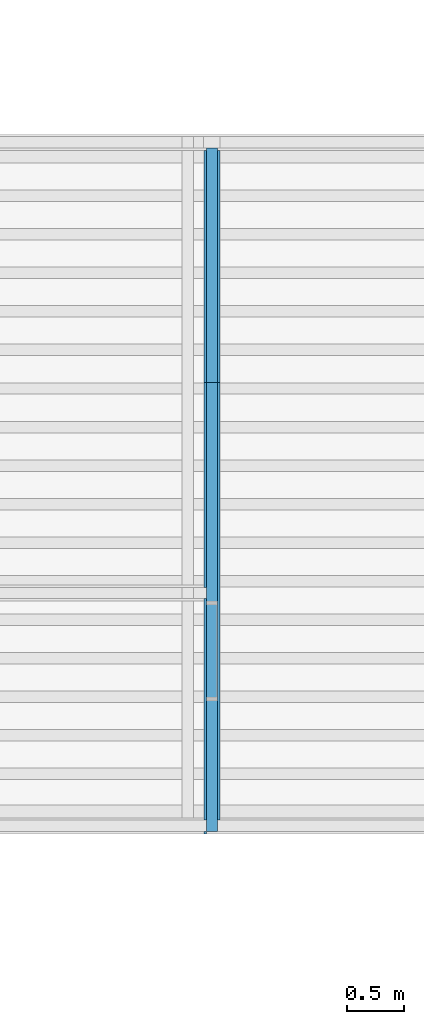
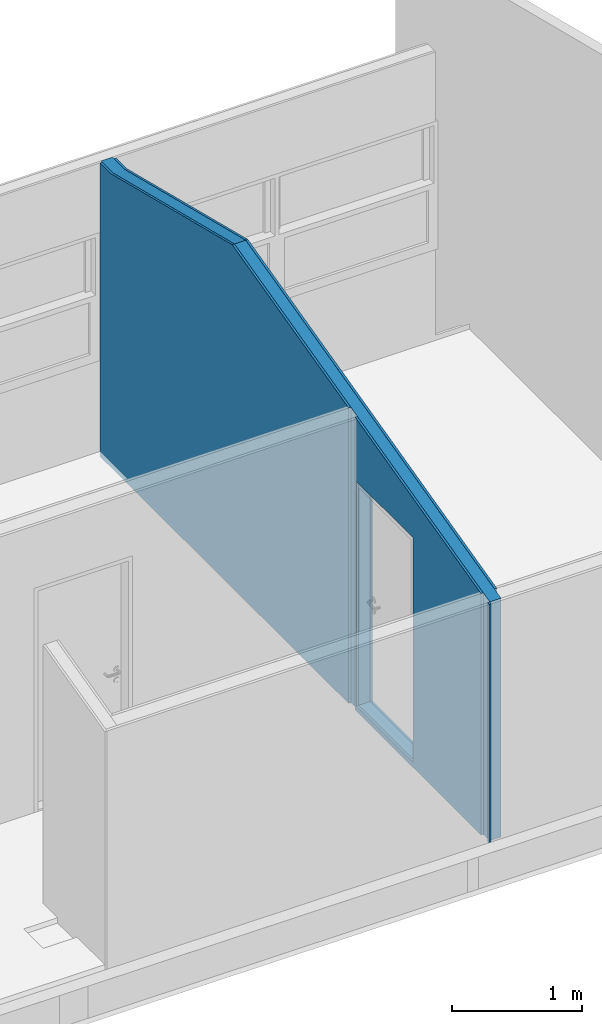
# One storey, part 5 of 13: 3 building element parts, 1 opening, 1 element without a shape of its own.
"""IFC2X3 building model written with IfcOpenShell, lengths in millimetres."""

from ifc_helpers import new_model, entity, si_unit, converted_unit, derived_unit, money_unit, direction, frame, origin_with_axes, origin_2d_with_axis, place, context, subcontext, project, spatial, polyline, rectangle, outline, extrude, boolean, faceted_brep, material, type_object, element, aggregate, save


model = new_model("IFC2X3")

# Units and contexts
model_context = context("Model", 3, precision=0.01, world=origin_with_axes(), true_north=direction((0.293984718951, 0.955810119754)))
body_context = subcontext(model_context, "Body", "Model", "MODEL_VIEW")
ifc_project = project(units=[si_unit("LENGTHUNIT", "METRE", prefix="MILLI"), si_unit("AREAUNIT", "SQUARE_METRE"), si_unit("VOLUMEUNIT", "CUBIC_METRE"), converted_unit("PLANEANGLEUNIT", "DEGREE", entity("IfcPlaneAngleMeasure", 0.0174532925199), si_unit("PLANEANGLEUNIT", "RADIAN"), dimensions=[0, 0, 0, 0, 0, 0, 0]), si_unit("SOLIDANGLEUNIT", "STERADIAN"), money_unit("USD"), converted_unit("TIMEUNIT", "Year", entity("IfcTimeMeasure", 31556926.0), si_unit("TIMEUNIT", "SECOND"), dimensions=[0, 0, 1, 0, 0, 0, 0]), si_unit("MASSUNIT", "GRAM", prefix="KILO"), si_unit("THERMODYNAMICTEMPERATUREUNIT", "DEGREE_CELSIUS"), si_unit("LUMINOUSINTENSITYUNIT", "LUMEN"), si_unit("ENERGYUNIT", "JOULE", prefix="MEGA"), derived_unit("THERMALCONDUCTANCEUNIT", [(si_unit("POWERUNIT", "WATT"), 1), (si_unit("LENGTHUNIT", "METRE"), -1), (si_unit("THERMODYNAMICTEMPERATUREUNIT", "KELVIN"), -1)]), derived_unit("SPECIFICHEATCAPACITYUNIT", [(si_unit("ENERGYUNIT", "JOULE"), 1), (si_unit("MASSUNIT", "GRAM", prefix="KILO"), -1), (si_unit("THERMODYNAMICTEMPERATUREUNIT", "KELVIN"), -1)]), derived_unit("MASSDENSITYUNIT", [(si_unit("MASSUNIT", "GRAM", prefix="KILO"), 1), (si_unit("VOLUMEUNIT", "CUBIC_METRE"), -1)])], contexts=[model_context])

# Site, building, storey
site_placement = place(None, origin_with_axes())
site = spatial("IfcSite", under=ifc_project, at=site_placement, Name="Local", CompositionType="ELEMENT")
building_placement = place(site_placement, origin_with_axes())
building = spatial("IfcBuilding", under=site, at=building_placement, Name="Construção", CompositionType="ELEMENT")
storey_placement = place(building_placement, frame((0.0, 0.0, 3050.0), z_axis=(0.0, 0.0, 1.0), x_axis=(1.0, 0.0, 0.0)))
storey = spatial("IfcBuildingStorey", under=building, at=storey_placement, Name="Primeiro Pavimento", CompositionType="ELEMENT", Elevation=3050.0)

# Wall, opening, building element parts
wall_type = type_object("IfcWallType", Name="Alvenaria Tijolo Maciço com Revestimento 14cm 140", PredefinedType="NOTDEFINED")
wall_placement = place(storey_placement, frame((17449.6450727, 12950.6321979, 0.0), z_axis=(0.0, 0.0, 1.0), x_axis=(0.0, -1.0, 0.0)))
wall = element("IfcWall", 1, at=wall_placement, inside=storey, type_object=wall_type, Name="Parede")
opening_placement = place(wall_placement, frame((4505.0, 0.0, 50.0), z_axis=(0.0, 0.0, 1.0), x_axis=(1.0, 0.0, 0.0)))
element("IfcOpeningElement", 2, at=opening_placement, cuts=wall, Name="P07", context=body_context, shape_type="SweptSolid", body=[
    extrude(rectangle(XDim=870.0, YDim=2100.0, at=origin_2d_with_axis()), frame((0.0, -140.0, 1050.0), z_axis=(0.0, 1.0, 0.0), x_axis=(1.0, 0.0, 0.0)), (0.0, 0.0, 1.0), 420.0),
])
ifc_material_1 = material(Name="Reboco (1)")
building_element_part_1_placement = place(wall_placement, origin_with_axes())
building_element_part_1 = element("IfcBuildingElementPart", 3, at=building_element_part_1_placement, material=ifc_material_1, Name="Reboco (1)", context=body_context, shape_type="CSG", body=[
    boolean("DIFFERENCE", boolean("DIFFERENCE", boolean("DIFFERENCE", extrude(outline(polyline([(-1.03028696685e-10, -70.0), (6100.0, -70.0), (6100.0, -50.0), (-1.03028696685e-10, -50.0), (-1.03028696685e-10, -70.0)])), origin_with_axes(), (0.0, 0.0, 1.0), 3211.87314734), faceted_brep([(6080.0, -50.0, 2235.33656611), (6080.0, -50.0, 0.0), (5980.0, -50.0, 0.0), (5980.0, -50.0, 2260.2693664), (4050.0, -50.0, 2741.47241189), (4050.0, -50.0, 0.0), (3950.0, -50.0, 0.0), (3950.0, -50.0, 2766.40521217), (2163.32569914, -50.0, 3211.87314734), (6100.0, -50.0, 3211.87314734), (6100.0, -50.0, 2230.35000606), (6080.0, -70.0, 2235.33656611), (6080.0, -70.0, 0.0), (5980.0, -70.0, 0.0), (5980.0, -70.0, 2260.2693664), (4050.0, -70.0, 2741.47241189), (4050.0, -70.0, 0.0), (3950.0, -70.0, 0.0), (3950.0, -70.0, 2766.40521217), (2163.32569914, -70.0, 3211.87314734), (-1.03028696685e-10, -50.0, 3211.87314734), (-1.03028696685e-10, -70.0, 3211.87314734), (6100.0, -70.0, 3211.87314734), (6100.0, -70.0, 2230.35000606), (310.825699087, -70.0, 2749.9930219), (310.825699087, -50.0, 2749.9930219), (-1.03028696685e-10, -50.0, 0.0), (-1.03028696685e-10, -70.0, 0.0), (140.0, -70.0, 0.0), (140.0, -70.0, 2749.99302172), (140.0, -50.0, 2749.99302172), (140.0, -50.0, 0.0)], [[[0, 1, 2, 3, 4, 5, 6, 7, 8, 9, 10]], [[1, 0, 11, 12]], [[1, 12, 13, 2]], [[3, 2, 13, 14]], [[14, 15, 4, 3]], [[5, 4, 15, 16]], [[17, 6, 5, 16]], [[7, 6, 17, 18]], [[18, 19, 8, 7]], [[20, 21, 19, 22, 9, 8]], [[23, 10, 9, 22]], [[0, 10, 23, 11]], [[11, 23, 22, 19, 18, 17, 16, 15, 14, 13, 12]], [[19, 24, 25, 8]], [[20, 26, 27, 21]], [[24, 19, 21, 27, 28, 29]], [[8, 25, 30, 31, 26, 20]], [[24, 29, 30, 25]], [[31, 28, 27, 26]], [[31, 30, 29, 28]]])), faceted_brep([(310.825699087, 50.0, 2749.9930219), (120.0, 50.0, 2749.99302172), (120.0, 50.0, 0.0), (-1.03028696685e-10, 50.0, 0.0), (-1.03028696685e-10, 50.0, 3211.87314734), (2163.32569914, 50.0, 3211.87314734), (310.825699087, -50.0, 2749.9930219), (120.0, -50.0, 2749.99302172), (120.0, -50.0, 0.0), (-1.03028696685e-10, -50.0, 0.0), (-1.03028696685e-10, -50.0, 3211.87314734), (2163.32569914, -50.0, 3211.87314734), (6100.0, -50.0, 3211.87314734), (6100.0, 50.0, 3211.87314734), (6080.0, -50.0, 2235.33656611), (6080.0, -50.0, 0.0), (6100.0, -50.0, 0.0), (6100.0, 50.0, 0.0), (6080.0, 50.0, 2235.33656611), (6080.0, 50.0, 0.0)], [[[0, 1, 2, 3, 4, 5]], [[1, 0, 6, 7]], [[2, 1, 7, 8]], [[2, 8, 9, 3]], [[4, 3, 9, 10]], [[4, 10, 11, 12, 13, 5]], [[6, 0, 5, 11]], [[6, 11, 10, 9, 8, 7]], [[14, 15, 16, 12, 11]], [[12, 16, 17, 13]], [[18, 5, 13, 17, 19]], [[18, 14, 11, 5]], [[18, 19, 15, 14]], [[15, 19, 17, 16]]])), faceted_brep([(2163.32569914, 70.0, 3211.87314734), (310.825699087, 70.0, 2749.9930219), (140.0, 70.0, 2749.99302172), (140.0, 70.0, 0.0), (-1.03028696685e-10, 70.0, 0.0), (-1.03028696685e-10, 70.0, 3211.87314734), (2163.32569914, 50.0, 3211.87314734), (310.825699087, 50.0, 2749.9930219), (140.0, 50.0, 2749.99302174), (140.0, 50.0, 0.0), (-1.03028696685e-10, 50.0, 0.0), (-1.03028696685e-10, 50.0, 3211.87314734), (6100.0, 50.0, 3211.87314734), (6100.0, 70.0, 3211.87314734), (5980.0, 70.0, 2260.2693664), (5980.0, 50.0, 2260.2693664), (5980.0, 50.0, 0.0), (6100.0, 50.0, 0.0), (6100.0, 70.0, 0.0), (5980.0, 70.0, 0.0)], [[[0, 1, 2, 3, 4, 5]], [[1, 0, 6, 7]], [[2, 1, 7, 8]], [[3, 2, 8, 9]], [[3, 9, 10, 4]], [[5, 4, 10, 11]], [[5, 11, 6, 12, 13, 0]], [[0, 14, 15, 6]], [[7, 6, 11, 10, 9, 8]], [[15, 16, 17, 12, 6]], [[12, 17, 18, 13]], [[14, 0, 13, 18, 19]], [[14, 19, 16, 15]], [[16, 19, 18, 17]]])),
])
ifc_material_2 = material(Name="Tijolo - Estrutural (1)")
building_element_part_2_placement = place(wall_placement, origin_with_axes())
building_element_part_2 = element("IfcBuildingElementPart", 4, at=building_element_part_2_placement, material=ifc_material_2, Name="Tijolo - Estrutural (1)", context=body_context, shape_type="CSG", body=[
    boolean("DIFFERENCE", boolean("DIFFERENCE", boolean("DIFFERENCE", extrude(outline(polyline([(-1.03028696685e-10, -50.0), (6100.0, -50.0), (6100.0, 50.0), (-1.03028696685e-10, 50.0), (-1.03028696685e-10, -50.0)])), origin_with_axes(), (0.0, 0.0, 1.0), 3211.87314734), faceted_brep([(6080.0, -50.0, 2235.33656611), (6080.0, -50.0, 0.0), (5980.0, -50.0, 0.0), (5980.0, -50.0, 2260.2693664), (4050.0, -50.0, 2741.47241189), (4050.0, -50.0, 0.0), (3950.0, -50.0, 0.0), (3950.0, -50.0, 2766.40521217), (2163.32569914, -50.0, 3211.87314734), (6100.0, -50.0, 3211.87314734), (6100.0, -50.0, 2230.35000606), (6080.0, -70.0, 2235.33656611), (6080.0, -70.0, 0.0), (5980.0, -70.0, 0.0), (5980.0, -70.0, 2260.2693664), (4050.0, -70.0, 2741.47241189), (4050.0, -70.0, 0.0), (3950.0, -70.0, 0.0), (3950.0, -70.0, 2766.40521217), (2163.32569914, -70.0, 3211.87314734), (-1.03028696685e-10, -50.0, 3211.87314734), (-1.03028696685e-10, -70.0, 3211.87314734), (6100.0, -70.0, 3211.87314734), (6100.0, -70.0, 2230.35000606), (310.825699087, -70.0, 2749.9930219), (310.825699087, -50.0, 2749.9930219), (-1.03028696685e-10, -50.0, 0.0), (-1.03028696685e-10, -70.0, 0.0), (140.0, -70.0, 0.0), (140.0, -70.0, 2749.99302172), (140.0, -50.0, 2749.99302172), (140.0, -50.0, 0.0)], [[[0, 1, 2, 3, 4, 5, 6, 7, 8, 9, 10]], [[1, 0, 11, 12]], [[1, 12, 13, 2]], [[3, 2, 13, 14]], [[14, 15, 4, 3]], [[5, 4, 15, 16]], [[17, 6, 5, 16]], [[7, 6, 17, 18]], [[18, 19, 8, 7]], [[20, 21, 19, 22, 9, 8]], [[23, 10, 9, 22]], [[0, 10, 23, 11]], [[11, 23, 22, 19, 18, 17, 16, 15, 14, 13, 12]], [[19, 24, 25, 8]], [[20, 26, 27, 21]], [[24, 19, 21, 27, 28, 29]], [[8, 25, 30, 31, 26, 20]], [[24, 29, 30, 25]], [[31, 28, 27, 26]], [[31, 30, 29, 28]]])), faceted_brep([(310.825699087, 50.0, 2749.9930219), (120.0, 50.0, 2749.99302172), (120.0, 50.0, 0.0), (-1.03028696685e-10, 50.0, 0.0), (-1.03028696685e-10, 50.0, 3211.87314734), (2163.32569914, 50.0, 3211.87314734), (310.825699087, -50.0, 2749.9930219), (120.0, -50.0, 2749.99302172), (120.0, -50.0, 0.0), (-1.03028696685e-10, -50.0, 0.0), (-1.03028696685e-10, -50.0, 3211.87314734), (2163.32569914, -50.0, 3211.87314734), (6100.0, -50.0, 3211.87314734), (6100.0, 50.0, 3211.87314734), (6080.0, -50.0, 2235.33656611), (6080.0, -50.0, 0.0), (6100.0, -50.0, 0.0), (6100.0, 50.0, 0.0), (6080.0, 50.0, 2235.33656611), (6080.0, 50.0, 0.0)], [[[0, 1, 2, 3, 4, 5]], [[1, 0, 6, 7]], [[2, 1, 7, 8]], [[2, 8, 9, 3]], [[4, 3, 9, 10]], [[4, 10, 11, 12, 13, 5]], [[6, 0, 5, 11]], [[6, 11, 10, 9, 8, 7]], [[14, 15, 16, 12, 11]], [[12, 16, 17, 13]], [[18, 5, 13, 17, 19]], [[18, 14, 11, 5]], [[18, 19, 15, 14]], [[15, 19, 17, 16]]])), faceted_brep([(2163.32569914, 70.0, 3211.87314734), (310.825699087, 70.0, 2749.9930219), (140.0, 70.0, 2749.99302172), (140.0, 70.0, 0.0), (-1.03028696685e-10, 70.0, 0.0), (-1.03028696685e-10, 70.0, 3211.87314734), (2163.32569914, 50.0, 3211.87314734), (310.825699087, 50.0, 2749.9930219), (140.0, 50.0, 2749.99302174), (140.0, 50.0, 0.0), (-1.03028696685e-10, 50.0, 0.0), (-1.03028696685e-10, 50.0, 3211.87314734), (6100.0, 50.0, 3211.87314734), (6100.0, 70.0, 3211.87314734), (5980.0, 70.0, 2260.2693664), (5980.0, 50.0, 2260.2693664), (5980.0, 50.0, 0.0), (6100.0, 50.0, 0.0), (6100.0, 70.0, 0.0), (5980.0, 70.0, 0.0)], [[[0, 1, 2, 3, 4, 5]], [[1, 0, 6, 7]], [[2, 1, 7, 8]], [[3, 2, 8, 9]], [[3, 9, 10, 4]], [[5, 4, 10, 11]], [[5, 11, 6, 12, 13, 0]], [[0, 14, 15, 6]], [[7, 6, 11, 10, 9, 8]], [[15, 16, 17, 12, 6]], [[12, 17, 18, 13]], [[14, 0, 13, 18, 19]], [[14, 19, 16, 15]], [[16, 19, 18, 17]]])),
])
building_element_part_3_placement = place(wall_placement, origin_with_axes())
building_element_part_3 = element("IfcBuildingElementPart", 5, at=building_element_part_3_placement, material=ifc_material_1, Name="Reboco (1)", context=body_context, shape_type="CSG", body=[
    boolean("DIFFERENCE", boolean("DIFFERENCE", boolean("DIFFERENCE", extrude(outline(polyline([(-1.03028696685e-10, 50.0), (6100.0, 50.0), (6100.0, 70.0), (-1.03028696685e-10, 70.0), (-1.03028696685e-10, 50.0)])), origin_with_axes(), (0.0, 0.0, 1.0), 3211.87314734), faceted_brep([(6080.0, -50.0, 2235.33656611), (6080.0, -50.0, 0.0), (5980.0, -50.0, 0.0), (5980.0, -50.0, 2260.2693664), (4050.0, -50.0, 2741.47241189), (4050.0, -50.0, 0.0), (3950.0, -50.0, 0.0), (3950.0, -50.0, 2766.40521217), (2163.32569914, -50.0, 3211.87314734), (6100.0, -50.0, 3211.87314734), (6100.0, -50.0, 2230.35000606), (6080.0, -70.0, 2235.33656611), (6080.0, -70.0, 0.0), (5980.0, -70.0, 0.0), (5980.0, -70.0, 2260.2693664), (4050.0, -70.0, 2741.47241189), (4050.0, -70.0, 0.0), (3950.0, -70.0, 0.0), (3950.0, -70.0, 2766.40521217), (2163.32569914, -70.0, 3211.87314734), (-1.03028696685e-10, -50.0, 3211.87314734), (-1.03028696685e-10, -70.0, 3211.87314734), (6100.0, -70.0, 3211.87314734), (6100.0, -70.0, 2230.35000606), (310.825699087, -70.0, 2749.9930219), (310.825699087, -50.0, 2749.9930219), (-1.03028696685e-10, -50.0, 0.0), (-1.03028696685e-10, -70.0, 0.0), (140.0, -70.0, 0.0), (140.0, -70.0, 2749.99302172), (140.0, -50.0, 2749.99302172), (140.0, -50.0, 0.0)], [[[0, 1, 2, 3, 4, 5, 6, 7, 8, 9, 10]], [[1, 0, 11, 12]], [[1, 12, 13, 2]], [[3, 2, 13, 14]], [[14, 15, 4, 3]], [[5, 4, 15, 16]], [[17, 6, 5, 16]], [[7, 6, 17, 18]], [[18, 19, 8, 7]], [[20, 21, 19, 22, 9, 8]], [[23, 10, 9, 22]], [[0, 10, 23, 11]], [[11, 23, 22, 19, 18, 17, 16, 15, 14, 13, 12]], [[19, 24, 25, 8]], [[20, 26, 27, 21]], [[24, 19, 21, 27, 28, 29]], [[8, 25, 30, 31, 26, 20]], [[24, 29, 30, 25]], [[31, 28, 27, 26]], [[31, 30, 29, 28]]])), faceted_brep([(310.825699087, 50.0, 2749.9930219), (120.0, 50.0, 2749.99302172), (120.0, 50.0, 0.0), (-1.03028696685e-10, 50.0, 0.0), (-1.03028696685e-10, 50.0, 3211.87314734), (2163.32569914, 50.0, 3211.87314734), (310.825699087, -50.0, 2749.9930219), (120.0, -50.0, 2749.99302172), (120.0, -50.0, 0.0), (-1.03028696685e-10, -50.0, 0.0), (-1.03028696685e-10, -50.0, 3211.87314734), (2163.32569914, -50.0, 3211.87314734), (6100.0, -50.0, 3211.87314734), (6100.0, 50.0, 3211.87314734), (6080.0, -50.0, 2235.33656611), (6080.0, -50.0, 0.0), (6100.0, -50.0, 0.0), (6100.0, 50.0, 0.0), (6080.0, 50.0, 2235.33656611), (6080.0, 50.0, 0.0)], [[[0, 1, 2, 3, 4, 5]], [[1, 0, 6, 7]], [[2, 1, 7, 8]], [[2, 8, 9, 3]], [[4, 3, 9, 10]], [[4, 10, 11, 12, 13, 5]], [[6, 0, 5, 11]], [[6, 11, 10, 9, 8, 7]], [[14, 15, 16, 12, 11]], [[12, 16, 17, 13]], [[18, 5, 13, 17, 19]], [[18, 14, 11, 5]], [[18, 19, 15, 14]], [[15, 19, 17, 16]]])), faceted_brep([(2163.32569914, 70.0, 3211.87314734), (310.825699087, 70.0, 2749.9930219), (140.0, 70.0, 2749.99302172), (140.0, 70.0, 0.0), (-1.03028696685e-10, 70.0, 0.0), (-1.03028696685e-10, 70.0, 3211.87314734), (2163.32569914, 50.0, 3211.87314734), (310.825699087, 50.0, 2749.9930219), (140.0, 50.0, 2749.99302174), (140.0, 50.0, 0.0), (-1.03028696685e-10, 50.0, 0.0), (-1.03028696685e-10, 50.0, 3211.87314734), (6100.0, 50.0, 3211.87314734), (6100.0, 70.0, 3211.87314734), (5980.0, 70.0, 2260.2693664), (5980.0, 50.0, 2260.2693664), (5980.0, 50.0, 0.0), (6100.0, 50.0, 0.0), (6100.0, 70.0, 0.0), (5980.0, 70.0, 0.0)], [[[0, 1, 2, 3, 4, 5]], [[1, 0, 6, 7]], [[2, 1, 7, 8]], [[3, 2, 8, 9]], [[3, 9, 10, 4]], [[5, 4, 10, 11]], [[5, 11, 6, 12, 13, 0]], [[0, 14, 15, 6]], [[7, 6, 11, 10, 9, 8]], [[15, 16, 17, 12, 6]], [[12, 17, 18, 13]], [[14, 0, 13, 18, 19]], [[14, 19, 16, 15]], [[16, 19, 18, 17]]])),
])
aggregate(wall, [building_element_part_1, building_element_part_2, building_element_part_3])

save(model, "model.ifc")
